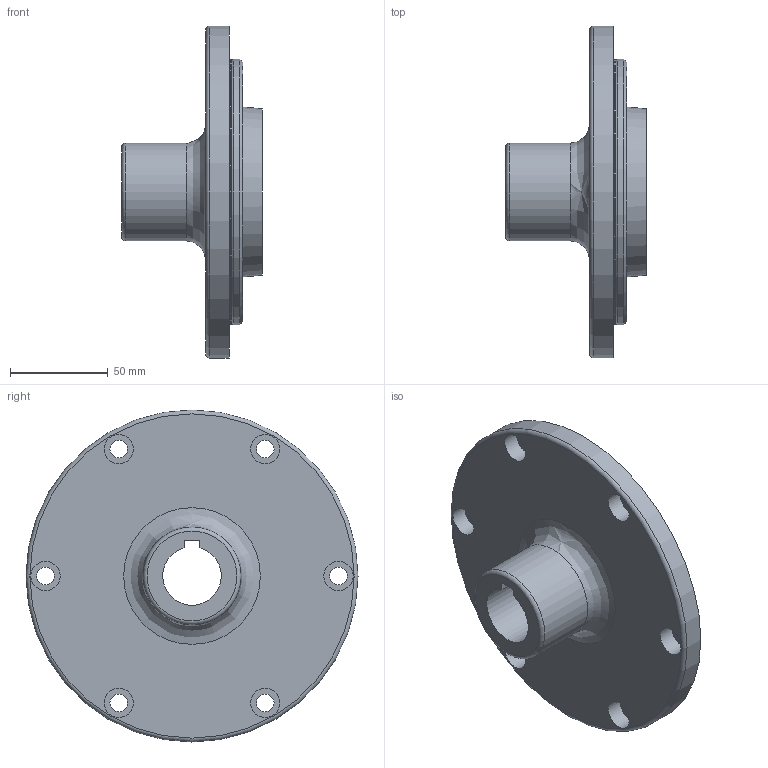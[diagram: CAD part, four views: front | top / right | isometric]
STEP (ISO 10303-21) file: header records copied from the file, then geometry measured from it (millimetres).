
FILE_DESCRIPTION((''),'2;1');
FILE_NAME('I:\Kurz\oerlikon_neu\Fliehkraftkupplung\682Modelle-Ausfuehrung_mit_Passfeder\Modell_Abtriebsnabe_V1_Pos02.stp','2010-05-04T19:50:36',('Administrator'),(''),'Autodesk Inventor 11','Autodesk Inventor 11','');
FILE_SCHEMA(('AUTOMOTIVE_DESIGN { 1 0 10303 214 1 1 1 1 }'));
Length unit declared in the file: millimetre
Products named in the file (1): Pos2_Abtriebsnabe
Bounding box: 72 x 170 x 170 mm (x, y, z)
Volume: 350341.3 mm3; surface area: 75957.7 mm2
Topology: 1 solids, 1 shells, 51 faces, 97 edges, 60 vertices
Faces by surface type: cylinder 20, plane 17, torus 9, cone 4, bspline 1
Full cylindrical faces by diameter (mm): 9 x6, 15 x6, 50 x1, 75 x1, 75.6 x1, 125 x1, 135.4 x1, 136 x1, 170 x1
Entity records: 1219 total; most frequent: CARTESIAN_POINT 220, DIRECTION 220, ORIENTED_EDGE 128, EDGE_LOOP 110, AXIS2_PLACEMENT_3D 105, EDGE_CURVE 64, VERTEX_POINT 60, FACE_BOUND 59
